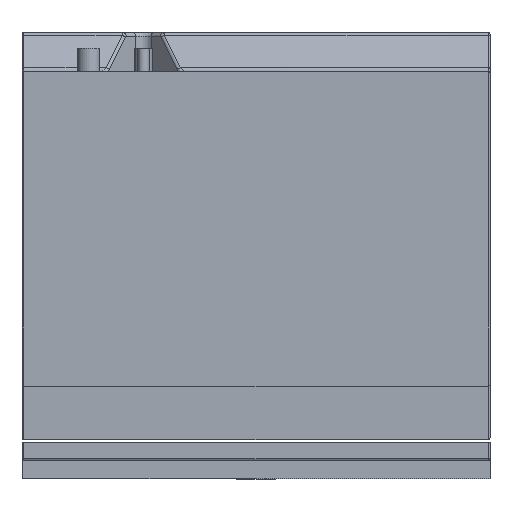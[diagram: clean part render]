
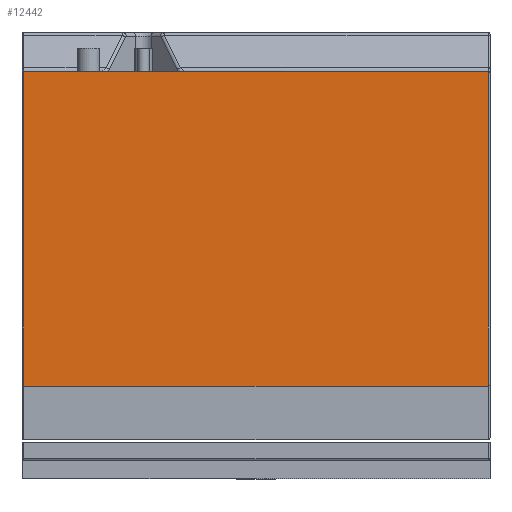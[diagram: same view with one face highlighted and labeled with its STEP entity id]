
A CAD part, front view. The second image highlights one B-rep face of the part: STEP entity #12442.
In plain terms, the highlighted planar face has unit normal (0, -1, 0).
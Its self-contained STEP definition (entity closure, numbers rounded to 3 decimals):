
#58 = VERTEX_POINT ( 'NONE', #12208 ) ;
#763 = CARTESIAN_POINT ( 'NONE',  ( 299., 0., 0. ) ) ;
#965 = CARTESIAN_POINT ( 'NONE',  ( 299., 0., 0. ) ) ;
#1342 = CARTESIAN_POINT ( 'NONE',  ( 299., 0., -401.7 ) ) ;
#1716 = CARTESIAN_POINT ( 'NONE',  ( 297., 0., -401.7 ) ) ;
#2201 = EDGE_CURVE ( 'NONE', #14083, #58, #10084, .T. ) ;
#2862 = AXIS2_PLACEMENT_3D ( 'NONE', #763, #4787, #6218 ) ;
#3157 = EDGE_CURVE ( 'NONE', #14083, #15118, #16357, .T. ) ;
#3172 = CARTESIAN_POINT ( 'NONE',  ( -297., 0., -401.7 ) ) ;
#3688 = ORIENTED_EDGE ( 'NONE', *, *, #12329, .T. ) ;
#4687 = DIRECTION ( 'NONE',  ( 0., 0., 1. ) ) ;
#4787 = DIRECTION ( 'NONE',  ( 0., 1., 0. ) ) ;
#5361 = VECTOR ( 'NONE', #4687, 1000. ) ;
#5627 = FACE_OUTER_BOUND ( 'NONE', #15383, .T. ) ;
#6026 = CARTESIAN_POINT ( 'NONE',  ( 297., 0., 0. ) ) ;
#6218 = DIRECTION ( 'NONE',  ( 0., 0., 1. ) ) ;
#6708 = LINE ( 'NONE', #15774, #10580 ) ;
#8111 = CARTESIAN_POINT ( 'NONE',  ( -297., 0., 0. ) ) ;
#9220 = ORIENTED_EDGE ( 'NONE', *, *, #11066, .T. ) ;
#10084 = LINE ( 'NONE', #6026, #5361 ) ;
#10580 = VECTOR ( 'NONE', #16701, 1000. ) ;
#11066 = EDGE_CURVE ( 'NONE', #58, #11695, #13179, .T. ) ;
#11695 = VERTEX_POINT ( 'NONE', #8111 ) ;
#12208 = CARTESIAN_POINT ( 'NONE',  ( 297., 0., 0. ) ) ;
#12329 = EDGE_CURVE ( 'NONE', #11695, #15118, #6708, .T. ) ;
#12442 = ADVANCED_FACE ( 'NONE', ( #5627 ), #13985, .F. ) ;
#13179 = LINE ( 'NONE', #965, #14872 ) ;
#13985 = PLANE ( 'NONE',  #2862 ) ;
#14083 = VERTEX_POINT ( 'NONE', #1716 ) ;
#14706 = DIRECTION ( 'NONE',  ( -1., 0., 0. ) ) ;
#14872 = VECTOR ( 'NONE', #14706, 1000. ) ;
#15118 = VERTEX_POINT ( 'NONE', #3172 ) ;
#15383 = EDGE_LOOP ( 'NONE', ( #9220, #3688, #15837, #17072 ) ) ;
#15774 = CARTESIAN_POINT ( 'NONE',  ( -297., 0., 0. ) ) ;
#15837 = ORIENTED_EDGE ( 'NONE', *, *, #3157, .F. ) ;
#15905 = VECTOR ( 'NONE', #16273, 1000. ) ;
#16273 = DIRECTION ( 'NONE',  ( -1., 0., 0. ) ) ;
#16357 = LINE ( 'NONE', #1342, #15905 ) ;
#16701 = DIRECTION ( 'NONE',  ( 0., 0., -1. ) ) ;
#17072 = ORIENTED_EDGE ( 'NONE', *, *, #2201, .T. ) ;
